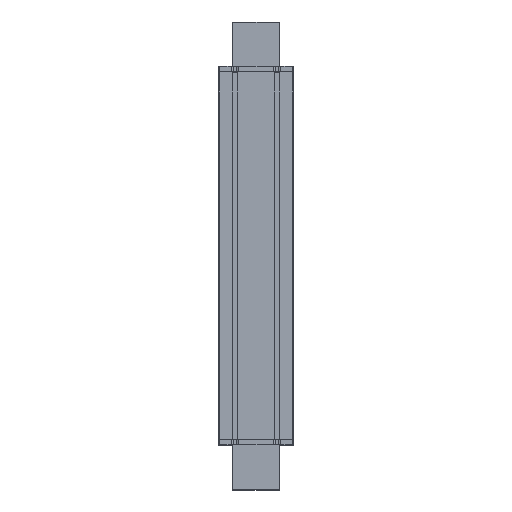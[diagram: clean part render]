
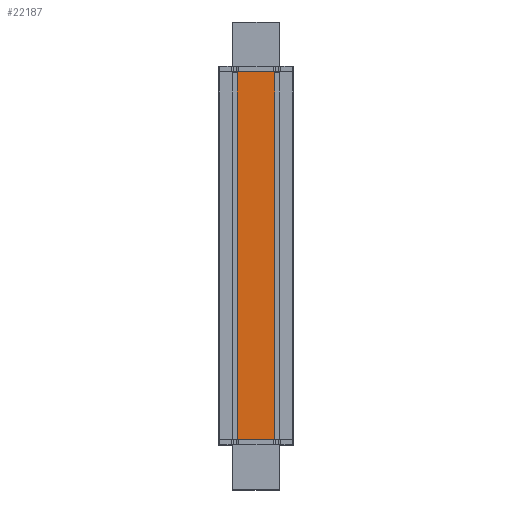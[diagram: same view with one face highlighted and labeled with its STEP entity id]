
A CAD part, top view. The second image highlights one B-rep face of the part: STEP entity #22187.
In plain terms, the highlighted planar face has unit normal (0, 0, 1) as drawn and (0, -1, 0) by its records, which use the part's own axes.
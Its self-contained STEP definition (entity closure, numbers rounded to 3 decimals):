
#1005 = LINE ( 'NONE', #13174, #8313 ) ;
#1370 = FACE_OUTER_BOUND ( 'NONE', #14695, .T. ) ;
#2984 = LINE ( 'NONE', #6690, #4522 ) ;
#3983 = ORIENTED_EDGE ( 'NONE', *, *, #17738, .T. ) ;
#4522 = VECTOR ( 'NONE', #15273, 1000. ) ;
#4653 = VERTEX_POINT ( 'NONE', #17021 ) ;
#5680 = CARTESIAN_POINT ( 'NONE',  ( 40., 0., -393. ) ) ;
#6227 = DIRECTION ( 'NONE',  ( 1., 0., 0. ) ) ;
#6345 = DIRECTION ( 'NONE',  ( 0., 0., -1. ) ) ;
#6550 = VECTOR ( 'NONE', #6345, 1000. ) ;
#6690 = CARTESIAN_POINT ( 'NONE',  ( -40., 0., -393. ) ) ;
#6802 = CARTESIAN_POINT ( 'NONE',  ( -40., 0., 393. ) ) ;
#6934 = ORIENTED_EDGE ( 'NONE', *, *, #19912, .T. ) ;
#6952 = VERTEX_POINT ( 'NONE', #5680 ) ;
#7704 = VERTEX_POINT ( 'NONE', #11366 ) ;
#8313 = VECTOR ( 'NONE', #6227, 1000. ) ;
#9614 = EDGE_CURVE ( 'NONE', #16423, #7704, #1005, .T. ) ;
#10678 = DIRECTION ( 'NONE',  ( 0., 0., -1. ) ) ;
#11366 = CARTESIAN_POINT ( 'NONE',  ( 40., 0., 393. ) ) ;
#11496 = CARTESIAN_POINT ( 'NONE',  ( -40., 0., 393. ) ) ;
#11572 = CARTESIAN_POINT ( 'NONE',  ( 40., 0., 393. ) ) ;
#11827 = DIRECTION ( 'NONE',  ( 0., 0., 1. ) ) ;
#13058 = LINE ( 'NONE', #11572, #6550 ) ;
#13174 = CARTESIAN_POINT ( 'NONE',  ( -40., 0., 393. ) ) ;
#14695 = EDGE_LOOP ( 'NONE', ( #3983, #15669, #19498, #6934 ) ) ;
#15273 = DIRECTION ( 'NONE',  ( 1., 0., 0. ) ) ;
#15533 = EDGE_CURVE ( 'NONE', #7704, #6952, #13058, .T. ) ;
#15648 = CARTESIAN_POINT ( 'NONE',  ( -40., 0., 393. ) ) ;
#15669 = ORIENTED_EDGE ( 'NONE', *, *, #15533, .F. ) ;
#16423 = VERTEX_POINT ( 'NONE', #11496 ) ;
#17021 = CARTESIAN_POINT ( 'NONE',  ( -40., 0., -393. ) ) ;
#17141 = DIRECTION ( 'NONE',  ( 0., 1., 0. ) ) ;
#17366 = VECTOR ( 'NONE', #10678, 1000. ) ;
#17738 = EDGE_CURVE ( 'NONE', #4653, #6952, #2984, .T. ) ;
#18965 = PLANE ( 'NONE',  #22413 ) ;
#19498 = ORIENTED_EDGE ( 'NONE', *, *, #9614, .F. ) ;
#19912 = EDGE_CURVE ( 'NONE', #16423, #4653, #22881, .T. ) ;
#22187 = ADVANCED_FACE ( 'PLANAR_27', ( #1370 ), #18965, .F. ) ;
#22413 = AXIS2_PLACEMENT_3D ( 'NONE', #6802, #17141, #11827 ) ;
#22881 = LINE ( 'NONE', #15648, #17366 ) ;
